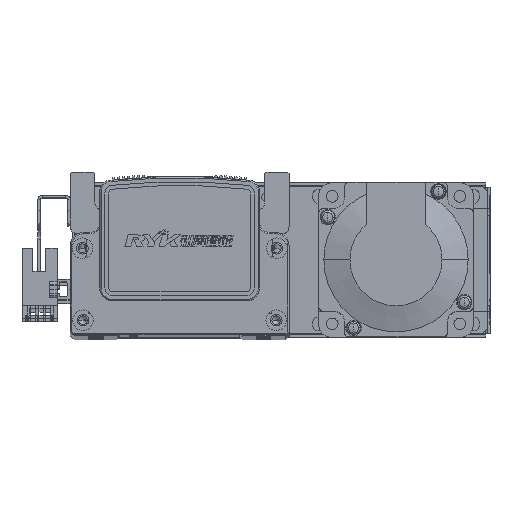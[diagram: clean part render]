
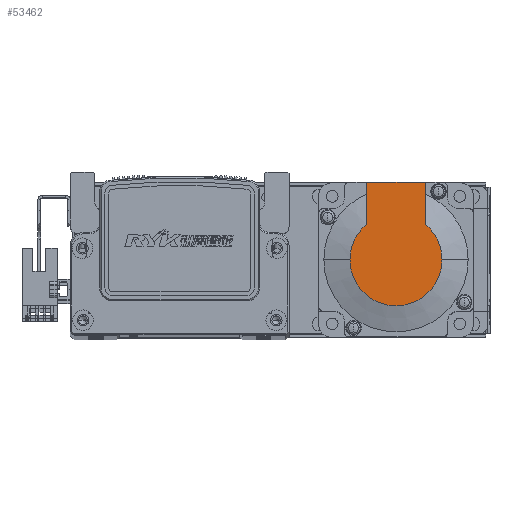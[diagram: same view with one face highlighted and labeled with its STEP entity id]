
A CAD part, top view. The second image highlights one B-rep face of the part: STEP entity #53462.
In plain terms, the highlighted planar face has unit normal (0, 0, 1) as drawn and (-1, 0, 0) by its records, which use the part's own axes.
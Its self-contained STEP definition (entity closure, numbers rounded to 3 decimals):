
#3258 = ORIENTED_EDGE ( 'NONE', *, *, #28752, .T. ) ;
#3272 = ORIENTED_EDGE ( 'NONE', *, *, #28800, .T. ) ;
#3328 = ORIENTED_EDGE ( 'NONE', *, *, #28833, .F. ) ;
#3336 = ORIENTED_EDGE ( 'NONE', *, *, #25706, .T. ) ;
#3354 = ORIENTED_EDGE ( 'NONE', *, *, #28823, .F. ) ;
#3358 = ORIENTED_EDGE ( 'NONE', *, *, #25674, .T. ) ;
#5858 = DIRECTION ( 'NONE',  ( -1., 0., 0. ) ) ;
#5869 = DIRECTION ( 'NONE',  ( 0., 0., 1. ) ) ;
#5880 = PLANE ( 'NONE',  #59336 ) ;
#5883 = CARTESIAN_POINT ( 'NONE',  ( -99., -8.941, 0. ) ) ;
#12197 = FACE_OUTER_BOUND ( 'NONE', #45423, .T. ) ;
#18950 = CIRCLE ( 'NONE', #62931, 17.881 ) ;
#19050 = LINE ( 'NONE', #27754, #19083 ) ;
#19083 = VECTOR ( 'NONE', #27730, 1000. ) ;
#19187 = LINE ( 'NONE', #27776, #19266 ) ;
#19233 = LINE ( 'NONE', #27783, #19237 ) ;
#19237 = VECTOR ( 'NONE', #27839, 1000. ) ;
#19266 = VECTOR ( 'NONE', #27800, 1000. ) ;
#25674 = EDGE_CURVE ( 'NONE', #55576, #55548, #38860, .T. ) ;
#25706 = EDGE_CURVE ( 'NONE', #55614, #55576, #38867, .T. ) ;
#27602 = DIRECTION ( 'NONE',  ( -1., 0., 0. ) ) ;
#27623 = CARTESIAN_POINT ( 'NONE',  ( -99., 0., 0. ) ) ;
#27624 = DIRECTION ( 'NONE',  ( 0., 0., -1. ) ) ;
#27730 = DIRECTION ( 'NONE',  ( 0., -1., 0. ) ) ;
#27754 = CARTESIAN_POINT ( 'NONE',  ( -99., -8.941, -11.45 ) ) ;
#27776 = CARTESIAN_POINT ( 'NONE',  ( -99., 30., 25. ) ) ;
#27783 = CARTESIAN_POINT ( 'NONE',  ( -99., 0., 11.45 ) ) ;
#27800 = DIRECTION ( 'NONE',  ( 0., 0., 1. ) ) ;
#27839 = DIRECTION ( 'NONE',  ( 0., -1., 0. ) ) ;
#28752 = EDGE_CURVE ( 'NONE', #55900, #55614, #18950, .T. ) ;
#28800 = EDGE_CURVE ( 'NONE', #56055, #55900, #19050, .T. ) ;
#28823 = EDGE_CURVE ( 'NONE', #56055, #56060, #19187, .T. ) ;
#28833 = EDGE_CURVE ( 'NONE', #56060, #55548, #19233, .T. ) ;
#34801 = DIRECTION ( 'NONE',  ( -1., 0., 0. ) ) ;
#34803 = CARTESIAN_POINT ( 'NONE',  ( -99., 0., 0. ) ) ;
#34810 = DIRECTION ( 'NONE',  ( 0., 0., -1. ) ) ;
#35632 = DIRECTION ( 'NONE',  ( 0., 0., -1. ) ) ;
#35641 = DIRECTION ( 'NONE',  ( -1., 0., 0. ) ) ;
#35650 = CARTESIAN_POINT ( 'NONE',  ( -99., 0., 0. ) ) ;
#38860 = CIRCLE ( 'NONE', #62245, 17.881 ) ;
#38867 = CIRCLE ( 'NONE', #62166, 17.881 ) ;
#45423 = EDGE_LOOP ( 'NONE', ( #3272, #3258, #3336, #3358, #3328, #3354 ) ) ;
#53462 = ADVANCED_FACE ( 'NONE', ( #12197 ), #5880, .T. ) ;
#55548 = VERTEX_POINT ( 'NONE', #64435 ) ;
#55576 = VERTEX_POINT ( 'NONE', #64439 ) ;
#55614 = VERTEX_POINT ( 'NONE', #64465 ) ;
#55900 = VERTEX_POINT ( 'NONE', #64768 ) ;
#56055 = VERTEX_POINT ( 'NONE', #64962 ) ;
#56060 = VERTEX_POINT ( 'NONE', #64933 ) ;
#59336 = AXIS2_PLACEMENT_3D ( 'NONE', #5883, #5858, #5869 ) ;
#62166 = AXIS2_PLACEMENT_3D ( 'NONE', #34803, #34801, #34810 ) ;
#62245 = AXIS2_PLACEMENT_3D ( 'NONE', #35650, #35641, #35632 ) ;
#62931 = AXIS2_PLACEMENT_3D ( 'NONE', #27623, #27602, #27624 ) ;
#64435 = CARTESIAN_POINT ( 'NONE',  ( -99., 13.735, 11.45 ) ) ;
#64439 = CARTESIAN_POINT ( 'NONE',  ( -99., 0., 17.881 ) ) ;
#64465 = CARTESIAN_POINT ( 'NONE',  ( -99., 0., -17.881 ) ) ;
#64768 = CARTESIAN_POINT ( 'NONE',  ( -99., 13.735, -11.45 ) ) ;
#64933 = CARTESIAN_POINT ( 'NONE',  ( -99., 30., 11.45 ) ) ;
#64962 = CARTESIAN_POINT ( 'NONE',  ( -99., 30., -11.45 ) ) ;
